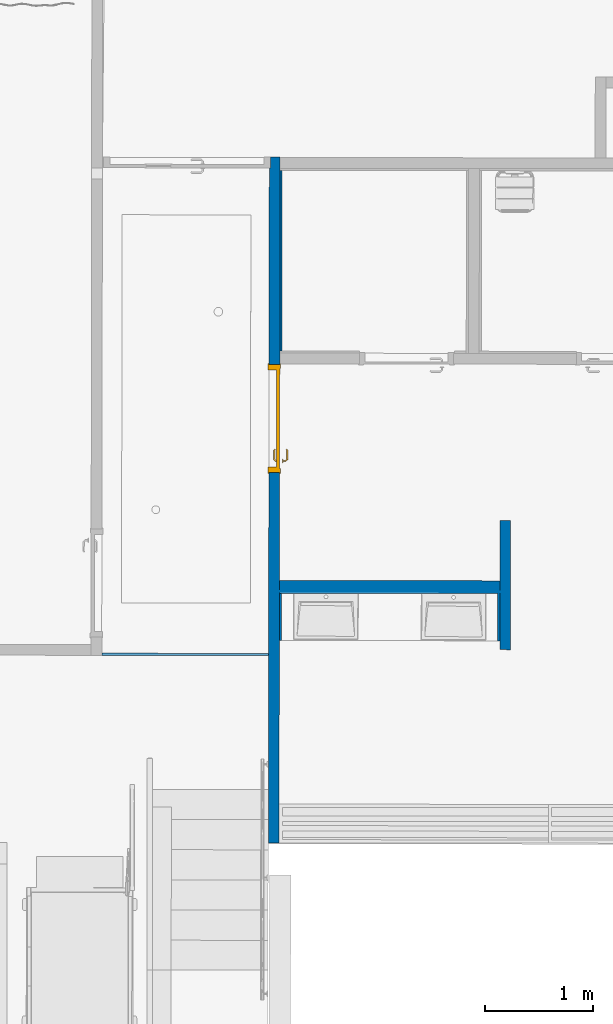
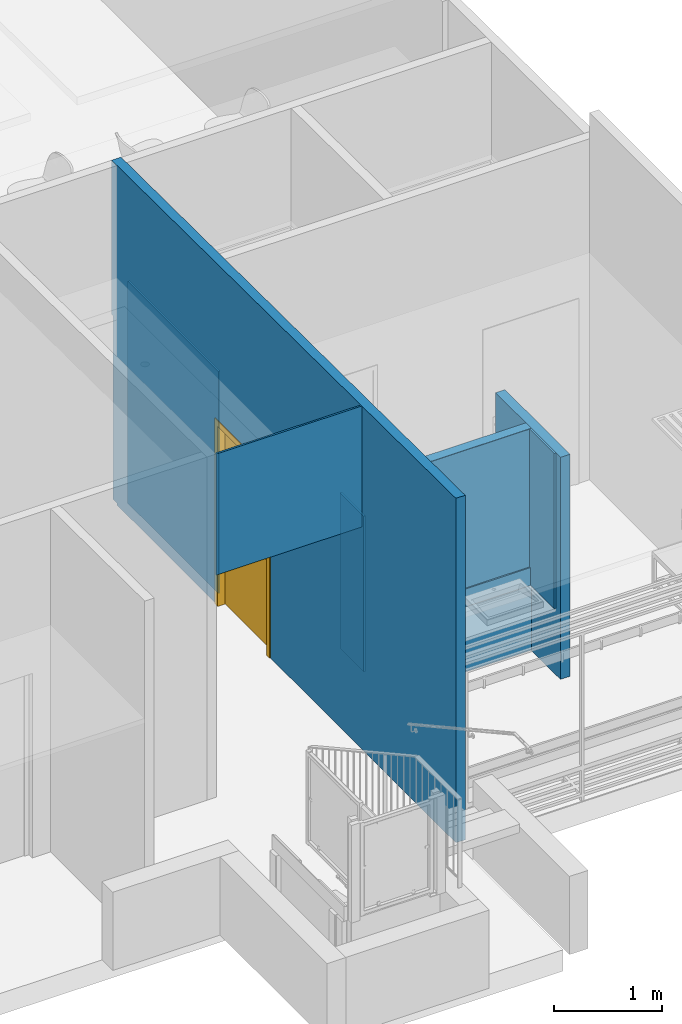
# One storey, part 14 of 43: 9 walls, 1 door, 2 openings.
"""IFC2X3 building model written with IfcOpenShell, lengths in metres."""

from ifc_helpers import new_model, entity, si_unit, converted_unit, derived_unit, direction, frame, frame_2d, origin, place, context, subcontext, project, spatial, polyline, rectangle, outline, extrude, clip, bounded_halfspace, faceted_brep, source, transform, mapped, material, material_list, layer, layer_set, layer_usage, type_object, type_shapes, element, fill, save


model = new_model("IFC2X3")

# Units and contexts
model_context = context("Model", 3, precision=1e-05, world=origin(), true_north=direction((6.123233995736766e-17, 1.0)))
body_context = subcontext(model_context, "Body", "Model", "MODEL_VIEW")
ifc_project = project(units=[si_unit("LENGTHUNIT", "METRE"), si_unit("AREAUNIT", "SQUARE_METRE"), converted_unit("PLANEANGLEUNIT", "DEGREE", entity("IfcPlaneAngleMeasure", 0.017453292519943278), si_unit("PLANEANGLEUNIT", "RADIAN"), dimensions=[0, 0, 0, 0, 0, 0, 0]), derived_unit("THERMALTRANSMITTANCEUNIT", [(si_unit("MASSUNIT", "GRAM", prefix="KILO"), 1), (si_unit("THERMODYNAMICTEMPERATUREUNIT", "KELVIN"), -1), (si_unit("TIMEUNIT", "SECOND"), -3)])], contexts=[model_context])

# Site, building, storey
site_placement = place(None, frame((1253.6752467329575, 2072.143113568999, 91.49999999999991), z_axis=(0.0, 0.0, 1.0), x_axis=(0.7237211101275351, 0.6900925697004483, 0.0)))
site = spatial("IfcSite", under=ifc_project, at=site_placement, Name="Surface", CompositionType="ELEMENT")
building_placement = place(site_placement, origin())
building = spatial("IfcBuilding", under=site, at=building_placement, CompositionType="ELEMENT")
storey_placement = place(building_placement, frame((0.0, 0.0, -4.629999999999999)))
storey = spatial("IfcBuildingStorey", under=building, at=storey_placement, Name="rez de rue -1.10m", CompositionType="ELEMENT", Elevation=-4.629999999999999)

# Wall, openings, door
ifc_material_1 = material(Name="OMD_Cloison 100mm CF1h")
ifc_layer_1 = layer(ifc_material_1, 0.1)
ifc_layer_set_1 = layer_set([ifc_layer_1], Name="Mur de base:Cloison 100mm CF1h")
ifc_layer_usage_1 = layer_usage(ifc_layer_set_1, "AXIS2", "NEGATIVE", 0.05)
wall_type_1 = type_object("IfcWallType", Name="Mur de base:Cloison 100mm CF1h", PredefinedType="STANDARD", material=ifc_layer_set_1)
wall_1_placement = place(storey_placement, frame((172.46814678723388, -10.815701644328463, 0.0), z_axis=(0.0, 0.0, 1.0), x_axis=(0.6911544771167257, 0.722707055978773, 0.0)))
wall_1 = element("IfcWallStandardCase", 1, at=wall_1_placement, inside=storey, type_object=wall_type_1, material=ifc_layer_usage_1, Name="Mur de base:Cloison 100mm CF1h", ObjectType="Mur de base:Cloison 100mm CF1h", context=body_context, shape_type="Clipping", body=[
    clip(extrude(outline(polyline([(6.363431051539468, -0.04999999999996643), (6.36343105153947, 0.05000000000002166), (6.2634310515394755, 0.05000000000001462), (1.758169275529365, 0.05000000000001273), (1.7381692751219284, 0.05000000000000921), (0.0, 0.05000000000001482), (2.3611774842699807e-05, -0.04999999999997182), (4.445082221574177, -0.04999999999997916), (4.545082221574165, -0.049999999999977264), (6.260037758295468, -0.049999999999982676), (6.3600377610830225, -0.04999999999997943), (6.363431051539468, -0.04999999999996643)])), origin(), (0.0, 0.0, 1.0), 3.8773252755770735), bounded_halfspace(frame((6.3634310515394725, -0.04999999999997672, 3.820681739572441), z_axis=(0.00890106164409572, 0.0, 0.9999603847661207), x_axis=(0.0, 1.0, 0.0)), False, frame((6.3634310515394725, -0.04999999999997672, 3.820681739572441)), polyline([(0.0, 0.0), (0.0, 0.09999999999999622), (-0.09999999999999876, 0.09999999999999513), (-4.605261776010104, 0.09999999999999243), (-4.625261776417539, 0.09999999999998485), (-6.363431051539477, 0.09999999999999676), (-6.363407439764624, 0.0), (-1.9183488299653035, 0.0), (-1.8183488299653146, 0.0), (-0.10339329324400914, 0.0), (-0.003393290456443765, 0.0), (0.0, 0.0)]))),
])
opening_1_placement = place(wall_1_placement, frame((-111.38554791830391, 132.11926722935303, 0.0)))
element("IfcOpeningElement", 2, at=opening_1_placement, cuts=wall_1, Name="Mur de base:Cloison 100mm CF1h", ObjectType="Opening", context=body_context, shape_type="SweptSolid", body=[
    extrude(rectangle(XDim=2.085, YDim=0.09999999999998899, at=frame_2d((-3.95516952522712e-16, 3.3306690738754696e-16), x_axis=(0.0, 1.0))), frame((117.69897896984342, -132.0823603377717, 1.0425000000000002), z_axis=(0.0, 1.0, 0.0), x_axis=(1.0, 0.0, 0.0)), (0.0, 0.0, 1.0), 1.5499999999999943),
])
opening_2_placement = place(wall_1_placement, frame((4.438673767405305, 0.050000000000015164, 0.0)))
opening_2 = element("IfcOpeningElement", 3, at=opening_2_placement, cuts=wall_1, Name="Grz_porte 1V recouvrement 30°:93x204:1", ObjectType="Opening", context=body_context, shape_type="SweptSolid", body=[
    extrude(rectangle(XDim=2.0749999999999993, YDim=0.999999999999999, at=frame_2d((1.0374999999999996, 0.4999999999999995), x_axis=(1.0, 0.0))), frame((0.0, 0.0, 0.0), z_axis=(0.0, -1.0, 0.0), x_axis=(0.0, 0.0, 1.0)), (0.0, 0.0, 1.0), 0.1),
])
ifc_material_2 = material(Name="Porte - Poignée")
ifc_material_3 = material(Name="OMD_RAL1032")
ifc_material_list = material_list([ifc_material_2, ifc_material_3])
door_style = type_object("IfcDoorStyle", Name="Grz_porte 1V recouvrement 30°:93x204", ConstructionType="NOTDEFINED", OperationType="SINGLE_SWING_RIGHT", ParameterTakesPrecedence=False, Sizeable=False, material=ifc_material_list)
shared_shape = source(origin(), body_context, "Body", "Brep", [
    faceted_brep([(0.1029747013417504, 0.00999999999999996, 0.9922195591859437), (0.10702529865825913, 0.00999999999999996, 0.992219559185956), (0.11100000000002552, 0.00999999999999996, 0.9930000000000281), (0.11100000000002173, 0.00999999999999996, 1.0069999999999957), (0.10702529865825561, 0.00999999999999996, 1.007780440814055), (0.10297470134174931, 0.00999999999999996, 1.0077804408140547), (0.09899999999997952, 0.00999999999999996, 1.0069999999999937), (0.0989999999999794, 0.00999999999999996, 0.9929999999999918), (0.11100000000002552, 0.03248520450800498, 0.9930000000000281), (0.11100000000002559, 0.03248520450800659, 1.0069999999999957), (0.10702529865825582, 0.03413157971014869, 1.007780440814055), (0.12083890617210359, 0.04794518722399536, 1.0077804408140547), (0.1191610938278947, 0.0519957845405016, 1.0077804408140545), (0.10297470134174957, 0.03580939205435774, 1.0077804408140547), (0.21068474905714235, 0.04146731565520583, 1.0077804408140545), (0.21354895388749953, 0.04433152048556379, 1.0077804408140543), (0.20588468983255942, 0.051995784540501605, 1.0077804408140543), (0.20420687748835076, 0.04794518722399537, 1.0077804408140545), (0.09899999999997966, 0.0374557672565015, 1.0069999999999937), (0.09899999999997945, 0.03745576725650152, 0.9929999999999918), (0.10297470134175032, 0.03580939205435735, 0.9922195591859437), (0.11916109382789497, 0.051995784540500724, 0.9922195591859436), (0.12083890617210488, 0.047945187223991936, 0.9922195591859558), (0.10702529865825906, 0.034131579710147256, 0.992219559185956), (0.21354895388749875, 0.044331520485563, 0.9922195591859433), (0.21068474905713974, 0.04146731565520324, 0.9922195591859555), (0.2042068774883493, 0.04794518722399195, 0.9922195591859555), (0.205884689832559, 0.05199578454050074, 0.9922195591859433), (0.122485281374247, 0.04397048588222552, 0.993000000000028), (0.1224852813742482, 0.04397048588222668, 1.0069999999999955), (0.11751471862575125, 0.05597048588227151, 1.0069999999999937), (0.11751471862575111, 0.0559704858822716, 0.9929999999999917), (0.1625228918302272, 0.043970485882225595, 0.9930000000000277), (0.20256050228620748, 0.04397048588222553, 0.9930000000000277), (0.20256050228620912, 0.04397048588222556, 1.0069999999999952), (0.1625228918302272, 0.04397048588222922, 1.0069999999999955), (0.16252289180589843, 0.0501249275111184, 1.007878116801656), (0.20753106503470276, 0.05597048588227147, 1.0069999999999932), (0.16760057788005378, 0.05597048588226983, 1.006999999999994), (0.20753106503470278, 0.055970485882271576, 0.9929999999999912), (0.15744520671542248, 0.05597048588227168, 0.9929999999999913), (0.1625228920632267, 0.050124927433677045, 0.9921218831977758), (0.2078742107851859, 0.038656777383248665, 0.9930000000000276), (0.21635949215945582, 0.0471420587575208, 0.9929999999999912), (0.21635949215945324, 0.047142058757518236, 1.0069999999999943), (0.20787421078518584, 0.0386567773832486, 1.0069999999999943)], [[[0, 1, 2, 3, 4, 5, 6, 7]], [[3, 2, 8, 9]], [[9, 10, 4, 3]], [[10, 11, 12, 13, 5, 4]], [[14, 15, 16, 17]], [[13, 18, 6, 5]], [[7, 6, 18, 19]], [[19, 20, 0, 7]], [[20, 21, 22, 23, 1, 0]], [[24, 25, 26, 27]], [[23, 8, 2, 1]], [[9, 8, 28, 29]], [[29, 11, 10, 9]], [[12, 30, 18, 13]], [[19, 18, 30, 31]], [[31, 21, 20, 19]], [[22, 28, 8, 23]], [[29, 28, 32, 33, 34, 35]], [[11, 35, 36]], [[16, 37, 38]], [[30, 12, 38]], [[38, 12, 36]], [[36, 35, 17]], [[17, 16, 36]], [[35, 11, 29]], [[34, 17, 35]], [[11, 36, 12]], [[38, 36, 16]], [[31, 30, 38, 37, 39, 40]], [[40, 41, 21]], [[41, 40, 27]], [[21, 31, 40]], [[39, 27, 40]], [[41, 32, 22]], [[22, 21, 41]], [[26, 32, 41]], [[28, 22, 32]], [[32, 26, 33]], [[26, 41, 27]], [[42, 25, 24, 43, 44, 15, 14, 45]], [[34, 33, 42, 45]], [[45, 14, 17, 34]], [[15, 44, 37, 16]], [[39, 37, 44, 43]], [[43, 24, 27, 39]], [[25, 42, 33, 26]]]),
    faceted_brep([(0.1029747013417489, -0.030000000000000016, 1.0077804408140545), (0.10702529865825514, -0.030000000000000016, 1.007780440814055), (0.11100000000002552, -0.030000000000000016, 1.0069999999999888), (0.1110000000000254, -0.030000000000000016, 0.9930000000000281), (0.10702529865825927, -0.030000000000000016, 0.992219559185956), (0.10297470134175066, -0.030000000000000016, 0.9922195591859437), (0.09899999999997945, -0.030000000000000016, 0.9929999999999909), (0.09899999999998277, -0.030000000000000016, 1.0069999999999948), (0.09899999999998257, -0.057650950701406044, 1.0069999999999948), (0.1029747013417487, -0.05600457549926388, 1.0077804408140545), (0.11902358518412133, -0.07205345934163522, 1.0077804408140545), (0.12070139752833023, -0.06800286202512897, 1.0077804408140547), (0.10702529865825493, -0.05432676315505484, 1.007780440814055), (0.21352181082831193, -0.06438919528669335, 1.007780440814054), (0.21065760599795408, -0.061524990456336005, 1.0077804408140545), (0.20417973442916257, -0.06800286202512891, 1.0077804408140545), (0.20585754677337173, -0.07205345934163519, 1.007780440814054), (0.11100000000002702, -0.05268038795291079, 1.0069999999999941), (0.11100000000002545, -0.0526803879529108, 0.9930000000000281), (0.10702529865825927, -0.054326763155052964, 0.992219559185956), (0.12070139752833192, -0.06800286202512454, 0.9922195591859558), (0.11902358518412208, -0.07205345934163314, 0.9922195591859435), (0.10297470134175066, -0.05600457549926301, 0.9922195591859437), (0.2106576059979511, -0.06152499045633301, 0.9922195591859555), (0.21352181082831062, -0.06438919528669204, 0.9922195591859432), (0.2058575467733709, -0.07205345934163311, 0.9922195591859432), (0.20417973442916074, -0.06800286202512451, 0.9922195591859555), (0.09899999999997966, -0.057650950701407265, 0.9929999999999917), (0.11737720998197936, -0.0760281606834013, 1.0069999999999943), (0.12234777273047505, -0.06402816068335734, 1.0069999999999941), (0.12234777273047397, -0.0640281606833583, 0.993000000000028), (0.11737720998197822, -0.07602816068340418, 0.9929999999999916), (0.15730769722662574, -0.07602816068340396, 1.0069999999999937), (0.16244056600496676, -0.0701828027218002, 1.0078781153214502), (0.207503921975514, -0.07602816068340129, 1.0069999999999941), (0.16244056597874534, -0.06402816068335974, 1.0069999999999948), (0.20253335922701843, -0.06402816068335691, 1.0069999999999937), (0.20253335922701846, -0.06402816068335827, 0.9930000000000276), (0.1624405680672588, -0.06402816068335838, 0.9930000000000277), (0.1624405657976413, -0.07018280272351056, 0.9921218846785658), (0.20750392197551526, -0.07602816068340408, 0.9929999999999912), (0.1675734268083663, -0.07602816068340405, 0.9929999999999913), (0.20784706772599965, -0.05871445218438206, 1.0069999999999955), (0.21633234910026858, -0.06719973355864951, 1.0069999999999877), (0.2163323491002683, -0.06719973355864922, 0.9929999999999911), (0.20784706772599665, -0.05871445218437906, 0.993000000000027)], [[[0, 1, 2, 3, 4, 5, 6, 7]], [[8, 9, 0, 7]], [[9, 10, 11, 12, 1, 0]], [[13, 14, 15, 16]], [[12, 17, 2, 1]], [[3, 2, 17, 18]], [[18, 19, 4, 3]], [[19, 20, 21, 22, 5, 4]], [[23, 24, 25, 26]], [[22, 27, 6, 5]], [[7, 6, 27, 8]], [[28, 10, 9, 8]], [[11, 29, 17, 12]], [[18, 17, 29, 30]], [[30, 20, 19, 18]], [[21, 31, 27, 22]], [[8, 27, 31, 28]], [[32, 33, 10]], [[33, 32, 16]], [[10, 28, 32]], [[34, 16, 32]], [[33, 35, 11]], [[11, 10, 33]], [[15, 35, 33]], [[29, 11, 35]], [[35, 15, 36]], [[15, 33, 16]], [[29, 35, 36, 37, 38, 30]], [[20, 38, 39]], [[25, 40, 41]], [[31, 21, 41]], [[41, 21, 39]], [[39, 38, 26]], [[26, 25, 39]], [[38, 20, 30]], [[37, 26, 38]], [[20, 39, 21]], [[41, 39, 25]], [[28, 31, 41, 40, 34, 32]], [[42, 14, 13, 43, 44, 24, 23, 45]], [[43, 13, 16, 34]], [[14, 42, 36, 15]], [[37, 36, 42, 45]], [[45, 23, 26, 37]], [[24, 44, 40, 25]], [[34, 40, 44, 43]]]),
    faceted_brep([(0.11535276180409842, 0.004999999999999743, 0.8660039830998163), (0.12499999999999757, 0.004999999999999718, 0.8700000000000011), (0.12499999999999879, 0.004999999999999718, 1.0800000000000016), (0.11535276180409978, 0.004999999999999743, 1.0839960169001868), (0.10499999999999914, 0.004999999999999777, 1.085358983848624), (0.09464723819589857, 0.004999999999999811, 1.0839960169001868), (0.08499999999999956, 0.004999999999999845, 1.0800000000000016), (0.08499999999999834, 0.004999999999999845, 0.8700000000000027), (0.09464723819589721, 0.004999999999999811, 0.8660039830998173), (0.10499999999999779, 0.004999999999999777, 0.8646410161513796), (0.11535276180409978, 0.009999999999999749, 1.0839960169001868), (0.12499999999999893, 0.009999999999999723, 1.0800000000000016), (0.12499999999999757, 0.009999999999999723, 0.8700000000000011), (0.11535276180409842, 0.009999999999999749, 0.8660039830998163), (0.10499999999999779, 0.009999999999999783, 0.8646410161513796), (0.09464723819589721, 0.009999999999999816, 0.8660039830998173), (0.08499999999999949, 0.009999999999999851, 0.870000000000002), (0.08499999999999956, 0.009999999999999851, 1.0800000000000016), (0.09464723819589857, 0.009999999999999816, 1.0839960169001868), (0.10499999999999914, 0.009999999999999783, 1.085358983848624)], [[[0, 1, 2, 3, 4, 5, 6, 7, 8, 9]], [[10, 11, 12, 13, 14, 15, 16, 17, 18, 19]], [[11, 10, 3, 2]], [[3, 10, 19, 4]], [[19, 18, 5, 4]], [[18, 17, 6, 5]], [[7, 6, 17, 16]], [[16, 15, 8, 7]], [[8, 15, 14, 9]], [[14, 13, 0, 9]], [[13, 12, 1, 0]], [[2, 1, 12, 11]]]),
    faceted_brep([(0.1153527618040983, -0.030000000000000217, 0.8660039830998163), (0.1249999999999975, -0.030000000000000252, 0.8700000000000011), (0.12499999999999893, -0.030000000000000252, 1.0800000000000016), (0.11535276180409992, -0.030000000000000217, 1.0839960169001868), (0.10499999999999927, -0.030000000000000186, 1.085358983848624), (0.09464723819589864, -0.03000000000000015, 1.0839960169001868), (0.08499999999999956, -0.030000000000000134, 1.0800000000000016), (0.08499999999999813, -0.030000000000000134, 0.8700000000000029), (0.09464723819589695, -0.03000000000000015, 0.8660039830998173), (0.10499999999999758, -0.030000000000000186, 0.8646410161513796), (0.11535276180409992, -0.025000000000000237, 1.0839960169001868), (0.12499999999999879, -0.025000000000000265, 1.0800000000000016), (0.1249999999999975, -0.025000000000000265, 0.8700000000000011), (0.1153527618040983, -0.025000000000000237, 0.8660039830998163), (0.10499999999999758, -0.025000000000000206, 0.8646410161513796), (0.09464723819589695, -0.02500000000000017, 0.8660039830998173), (0.08499999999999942, -0.025000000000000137, 0.8700000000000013), (0.08499999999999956, -0.025000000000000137, 1.0800000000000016), (0.09464723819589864, -0.02500000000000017, 1.0839960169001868), (0.10499999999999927, -0.025000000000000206, 1.085358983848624)], [[[0, 1, 2, 3, 4, 5, 6, 7, 8, 9]], [[10, 11, 12, 13, 14, 15, 16, 17, 18, 19]], [[16, 15, 8, 7]], [[8, 15, 14, 9]], [[14, 13, 0, 9]], [[13, 12, 1, 0]], [[2, 1, 12, 11]], [[11, 10, 3, 2]], [[3, 10, 19, 4]], [[19, 18, 5, 4]], [[18, 17, 6, 5]], [[7, 6, 17, 16]]]),
    faceted_brep([(0.0, 0.0, 0.0), (0.0, 0.10000000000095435, 0.0), (-0.010000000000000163, 0.10000000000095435, 0.0), (-0.010000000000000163, 0.10800000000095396, 0.0), (0.04999999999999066, 0.10800000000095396, 0.0), (0.04999999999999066, 0.030000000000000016, 0.0), (0.03499999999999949, 0.030000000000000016, 0.0), (0.03499999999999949, -0.008000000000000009, 0.0), (-0.010000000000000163, -0.008000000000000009, 0.0), (-0.010000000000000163, 0.0, 0.0), (0.0, 0.0, 2.0749999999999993), (0.0, 0.10000000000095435, 2.0749999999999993), (1.0, 0.10000000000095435, 2.0749999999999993), (1.0, 0.10000000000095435, 0.0), (1.0099999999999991, 0.10000000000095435, 0.0), (1.0099999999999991, 0.10000000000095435, 2.084999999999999), (-0.010000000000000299, 0.10000000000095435, 2.084999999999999), (-0.010000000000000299, 0.10800000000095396, 2.084999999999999), (1.0099999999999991, 0.10800000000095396, 2.084999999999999), (1.0099999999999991, 0.10800000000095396, 0.0), (0.9500000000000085, 0.10800000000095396, 0.0), (0.9500000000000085, 0.10800000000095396, 2.0250000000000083), (0.049999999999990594, 0.10800000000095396, 2.0250000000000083), (0.049999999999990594, 0.030000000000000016, 2.0250000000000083), (0.9500000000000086, 0.030000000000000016, 2.0250000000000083), (0.9500000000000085, 0.030000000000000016, 0.0), (0.9649999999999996, 0.030000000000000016, 0.0), (0.9649999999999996, 0.030000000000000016, 2.0399999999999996), (0.03499999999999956, 0.030000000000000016, 2.0399999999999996), (0.03499999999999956, -0.008000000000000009, 2.0399999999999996), (0.9649999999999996, -0.008000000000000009, 2.0399999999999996), (0.9649999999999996, -0.008000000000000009, 0.0), (1.0099999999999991, -0.008000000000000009, 0.0), (1.0099999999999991, -0.008000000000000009, 2.084999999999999), (-0.010000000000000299, -0.008000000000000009, 2.084999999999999), (-0.010000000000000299, 0.0, 2.084999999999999), (1.0099999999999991, 0.0, 2.084999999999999), (1.0099999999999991, 0.0, 0.0), (1.0, 0.0, 0.0), (1.0, 0.0, 2.0749999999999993)], [[[0, 1, 2, 3, 4, 5, 6, 7, 8, 9]], [[1, 0, 10, 11]], [[2, 1, 11, 12, 13, 14, 15, 16]], [[3, 2, 16, 17]], [[4, 3, 17, 18, 19, 20, 21, 22]], [[5, 4, 22, 23]], [[6, 5, 23, 24, 25, 26, 27, 28]], [[7, 6, 28, 29]], [[8, 7, 29, 30, 31, 32, 33, 34]], [[9, 8, 34, 35]], [[0, 9, 35, 36, 37, 38, 39, 10]], [[12, 39, 38, 13]], [[38, 37, 32, 31, 26, 25, 20, 19, 14, 13]], [[18, 15, 14, 19]], [[24, 21, 20, 25]], [[30, 27, 26, 31]], [[36, 33, 32, 37]], [[11, 10, 39, 12]], [[17, 16, 15, 18]], [[23, 22, 21, 24]], [[29, 28, 27, 30]], [[35, 34, 33, 36]]]),
    faceted_brep([(0.03499999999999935, 0.0, 2.0399999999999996), (0.03499999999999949, 0.0, 0.0), (0.9649999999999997, 0.0, 0.0), (0.9649999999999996, 0.0, 2.0399999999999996), (0.03499999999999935, 0.030000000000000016, 2.0399999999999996), (0.9649999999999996, 0.030000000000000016, 2.0399999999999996), (0.9649999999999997, 0.030000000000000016, 0.0), (0.03499999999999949, 0.030000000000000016, 0.0)], [[[0, 1, 2, 3]], [[4, 5, 6, 7]], [[1, 0, 4, 7]], [[2, 1, 7, 6]], [[3, 2, 6, 5]], [[0, 3, 5, 4]]]),
])
type_shapes(door_style, [shared_shape])
door_placement = place(opening_2_placement, frame((-1.0, -0.1000000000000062, 0.0)))
door = element("IfcDoor", 4, at=door_placement, inside=storey, type_object=door_style, material=ifc_material_list, Name="Grz_porte 1V recouvrement 30°:93x204", ObjectType="Grz_porte 1V recouvrement 30°:93x204", OverallHeight=2.0749999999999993, OverallWidth=1.0000000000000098, context=body_context, shape_type="MappedRepresentation", body=[
    mapped(shared_shape, transform((0.0, 0.0, 0.0), scale=1.0)),
])
fill(opening_2, door)

# Walls
ifc_material_4 = material(Name="OMD_Cloison 100mm")
ifc_layer_2 = layer(ifc_material_4, 0.1)
ifc_layer_set_2 = layer_set([ifc_layer_2], Name="Mur de base:Cloison 100mm")
ifc_layer_usage_2 = layer_usage(ifc_layer_set_2, "AXIS2", "POSITIVE", -0.05)
wall_type_2 = type_object("IfcWallType", Name="Mur de base:Cloison 100mm", PredefinedType="STANDARD", material=ifc_layer_set_2)
wall_2_placement = place(storey_placement, frame((174.15281473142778, -9.126467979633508, 0.0), z_axis=(0.0, 0.0, 1.0), x_axis=(0.722707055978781, -0.6911544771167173, 0.0)))
element("IfcWallStandardCase", 5, at=wall_2_placement, inside=storey, type_object=wall_type_2, material=ifc_layer_usage_2, Name="Mur de base:Cloison 100mm", ObjectType="Mur de base:Cloison 100mm", context=body_context, shape_type="Clipping", body=[
    clip(extrude(rectangle(XDim=2.0456550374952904, YDim=0.09999999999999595, at=frame_2d((1.0228275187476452, -3.0531133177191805e-16), x_axis=(-1.0, 0.0))), origin(), (0.0, 0.0, 1.0), 2.499999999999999), bounded_halfspace(frame((0.0, -0.050000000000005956, 2.4999999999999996), z_axis=(0.0, 0.0, -1.0), x_axis=(0.0, 1.0, 0.0)), True, frame((0.0, -0.050000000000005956, 2.4999999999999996)), polyline([(0.0, 0.0), (2.045655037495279, 0.0), (2.0456550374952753, 0.10000000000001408), (0.0, 0.10000000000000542), (0.0, 0.0)]))),
])
ifc_layer_usage_3 = layer_usage(ifc_layer_set_2, "AXIS2", "POSITIVE", -0.05)
wall_3_placement = place(storey_placement, frame((176.08896364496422, -10.134038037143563, 0.0), z_axis=(0.0, 0.0, 1.0), x_axis=(-0.6911544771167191, -0.7227070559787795, 0.0)))
element("IfcWallStandardCase", 6, at=wall_3_placement, inside=storey, type_object=wall_type_2, material=ifc_layer_usage_3, Name="Mur de base:Cloison 100mm", ObjectType="Mur de base:Cloison 100mm", context=body_context, shape_type="Clipping", body=[
    clip(extrude(rectangle(XDim=1.200000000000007, YDim=0.10000000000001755, at=frame_2d((0.6000000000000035, 7.28583859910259e-16), x_axis=(-1.0, 0.0))), origin(), (0.0, 0.0, 1.0), 2.499999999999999), bounded_halfspace(frame((0.0, -0.049999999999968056, 2.4999999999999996), z_axis=(0.0, 0.0, -1.0), x_axis=(-1.0, 0.0, 0.0)), True, frame((0.0, -0.049999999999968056, 2.4999999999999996)), polyline([(0.0, 0.0), (0.559999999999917, 0.0), (0.6599999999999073, 0.0), (0.6649999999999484, 0.0), (1.1999999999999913, 0.0), (1.2000000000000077, 0.09999999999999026), (0.0, 0.0999999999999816), (0.0, 0.0)]))),
])
ifc_layer_3 = layer(ifc_material_4, 0.02)
ifc_layer_set_3 = layer_set([ifc_layer_3], Name="Mur de base:joue plâtre")
ifc_layer_usage_4 = layer_usage(ifc_layer_set_3, "AXIS2", "NEGATIVE", 0.010000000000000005)
wall_type_3 = type_object("IfcWallType", Name="Mur de base:joue plâtre", PredefinedType="STANDARD", material=ifc_layer_set_3)
wall_4_placement = place(storey_placement, frame((173.64026791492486, -9.517731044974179, 2.4999999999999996), z_axis=(0.0, 0.0, 1.0), x_axis=(-0.7228465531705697, 0.6910085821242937, 0.0)))
element("IfcWallStandardCase", 7, at=wall_4_placement, inside=storey, type_object=wall_type_3, material=ifc_layer_usage_4, Name="Mur de base:joue plâtre", ObjectType="Mur de base:joue plâtre", context=body_context, shape_type="Clipping", body=[
    clip(extrude(outline(polyline([(1.547669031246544, -0.010000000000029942), (1.547668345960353, 0.009999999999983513), (4.037069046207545e-06, 0.009999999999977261), (0.0, -0.010000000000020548), (1.547669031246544, -0.010000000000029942)])), origin(), (0.0, 0.0, 1.0), 1.3618558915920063), bounded_halfspace(frame((0.0, -0.01000000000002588, 1.361675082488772), z_axis=(-1.7967099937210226e-06, -0.008901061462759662, 0.9999603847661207), x_axis=(0.9999999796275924, -0.00020185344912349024, 0.0)), False, frame((0.0, -0.01000000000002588, 1.361675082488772)), polyline([(0.0, 0.0), (1.5476690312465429, 0.0), (1.5476683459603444, 0.020000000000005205), (4.03706903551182e-06, 0.0200000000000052), (0.0, 0.0)]))),
])
ifc_material_5 = material(Name="OMD_faïence 6.5*20")
ifc_layer_4 = layer(ifc_material_5, 0.02)
ifc_layer_set_4 = layer_set([ifc_layer_4], Name="Mur de base:faïence")
ifc_layer_usage_5 = layer_usage(ifc_layer_set_4, "AXIS2", "POSITIVE", -0.010000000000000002)
wall_type_4 = type_object("IfcWallType", Name="Mur de base:faïence", PredefinedType="STANDARD", material=ifc_layer_set_4)
wall_5_placement = place(storey_placement, frame((175.27335358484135, -10.90007104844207, 0.7500000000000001), z_axis=(0.0, 0.0, 1.0), x_axis=(0.6911544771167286, 0.7227070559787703, 0.0)))
element("IfcWallStandardCase", 8, at=wall_5_placement, inside=storey, type_object=wall_type_4, material=ifc_layer_usage_5, Name="Mur de base:faïence", ObjectType="Mur de base:faïence", context=body_context, shape_type="Clipping", body=[
    clip(extrude(rectangle(XDim=0.45733000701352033, YDim=0.019999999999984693, at=frame_2d((0.22866500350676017, 1.8951853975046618e-15), x_axis=(-1.0, 0.0))), origin(), (0.0, 0.0, 1.0), 1.7499999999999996), bounded_halfspace(frame((0.0, -0.010000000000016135, 1.7499999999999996), z_axis=(0.0, 0.0, -1.0), x_axis=(1.0, 0.0, 0.0)), True, frame((0.0, -0.010000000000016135, 1.7499999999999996)), polyline([(0.0, 0.0), (0.45733000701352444, 0.0), (0.457330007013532, 0.020000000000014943), (0.0, 0.02000000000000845), (0.0, 0.0)]))),
])
ifc_layer_usage_6 = layer_usage(ifc_layer_set_4, "AXIS2", "POSITIVE", -0.010000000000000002)
wall_6_placement = place(storey_placement, frame((175.5753006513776, -10.569870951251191, 0.7500000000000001), z_axis=(0.0, 0.0, 1.0), x_axis=(-0.7227070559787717, 0.6911544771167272, 0.0)))
element("IfcWallStandardCase", 9, at=wall_6_placement, inside=storey, type_object=wall_type_4, material=ifc_layer_usage_6, Name="Mur de base:faïence", ObjectType="Mur de base:faïence", context=body_context, shape_type="SweptSolid", body=[
    extrude(rectangle(XDim=2.025655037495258, YDim=0.019999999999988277, at=frame_2d((1.012827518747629, -3.103420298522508e-15), x_axis=(-1.0, 0.0))), origin(), (0.0, 0.0, 1.0), 0.2),
])
ifc_layer_usage_7 = layer_usage(ifc_layer_set_4, "AXIS2", "POSITIVE", -0.010000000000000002)
wall_7_placement = place(storey_placement, frame((174.1116609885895, -9.183969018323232, 0.7500000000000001), z_axis=(0.0, 0.0, 1.0), x_axis=(-0.691154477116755, -0.722707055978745, 0.0)))
element("IfcWallStandardCase", 10, at=wall_7_placement, inside=storey, type_object=wall_type_4, material=ifc_layer_usage_7, Name="Mur de base:faïence", ObjectType="Mur de base:faïence", context=body_context, shape_type="Clipping", body=[
    clip(extrude(rectangle(XDim=0.437330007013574, YDim=0.019999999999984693, at=frame_2d((0.218665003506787, 6.600622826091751e-16), x_axis=(-1.0, 0.0))), origin(), (0.0, 0.0, 1.0), 1.7499999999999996), bounded_halfspace(frame((0.0, -0.010000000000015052, 1.7499999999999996), z_axis=(0.0, 0.0, -1.0), x_axis=(-1.0, 0.0, 0.0)), True, frame((0.0, -0.010000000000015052, 1.7499999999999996)), polyline([(0.0, 0.0), (0.43733000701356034, 0.0), (0.43733000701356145, 0.019999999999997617), (0.0, 0.02000000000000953), (0.0, 0.0)]))),
])
ifc_material_6 = material(Name="OMD-miroir")
ifc_layer_5 = layer(ifc_material_6, 0.005)
ifc_layer_set_5 = layer_set([ifc_layer_5], Name="Mur de base:miroir")
ifc_layer_usage_8 = layer_usage(ifc_layer_set_5, "AXIS2", "POSITIVE", -0.0024999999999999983)
wall_type_5 = type_object("IfcWallType", Name="Mur de base:miroir", PredefinedType="STANDARD", material=ifc_layer_set_5)
wall_8_placement = place(storey_placement, frame((175.59493845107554, -10.578273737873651, 0.9500000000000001), z_axis=(0.0, 0.0, 1.0), x_axis=(-0.7227070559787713, 0.6911544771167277, 0.0)))
element("IfcWallStandardCase", 11, at=wall_8_placement, inside=storey, type_object=wall_type_5, material=ifc_layer_usage_8, Name="Mur de base:miroir", ObjectType="Mur de base:miroir", context=body_context, shape_type="Clipping", body=[
    clip(extrude(rectangle(XDim=2.045655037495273, YDim=0.005000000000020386, at=frame_2d((1.0228275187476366, -1.5592995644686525e-15), x_axis=(-1.0, 0.0))), origin(), (0.0, 0.0, 1.0), 1.5499999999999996), bounded_halfspace(frame((0.0, -0.0024999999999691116, 1.5499999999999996), z_axis=(0.0, 0.0, -1.0), x_axis=(0.0, -1.0, 0.0)), True, frame((0.0, -0.0024999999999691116, 1.5499999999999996)), polyline([(0.0, 0.0), (2.045655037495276, 0.0), (2.0456550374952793, 0.004999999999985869), (0.0, 0.004999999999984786), (0.0, 0.0)]))),
])
ifc_material_7 = material(Name="OMD faience douche 60*120")
ifc_layer_6 = layer(ifc_material_7, 0.02)
ifc_layer_set_6 = layer_set([ifc_layer_6], Name="Mur de base:faïence douches")
ifc_layer_usage_9 = layer_usage(ifc_layer_set_6, "AXIS2", "POSITIVE", -0.010000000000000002)
wall_type_6 = type_object("IfcWallType", Name="Mur de base:faïence douches", PredefinedType="STANDARD", material=ifc_layer_set_6)
wall_9_placement = place(storey_placement, frame((175.66668622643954, -7.557953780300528, 0.0), z_axis=(0.0, 0.0, 1.0), x_axis=(0.6911544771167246, 0.7227070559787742, 0.0)))
element("IfcWallStandardCase", 12, at=wall_9_placement, inside=storey, type_object=wall_type_6, material=ifc_layer_usage_9, Name="Mur de base:faïence douches", ObjectType="Mur de base:faïence douches", context=body_context, shape_type="SweptSolid", body=[
    extrude(outline(polyline([(1.6745952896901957, -0.010000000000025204), (1.6745905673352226, 0.009999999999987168), (0.0, 0.009999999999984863), (0.0, -0.010000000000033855), (1.6745952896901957, -0.010000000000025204)])), origin(), (0.0, 0.0, 1.0), 2.499999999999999),
])

save(model, "model.ifc")
